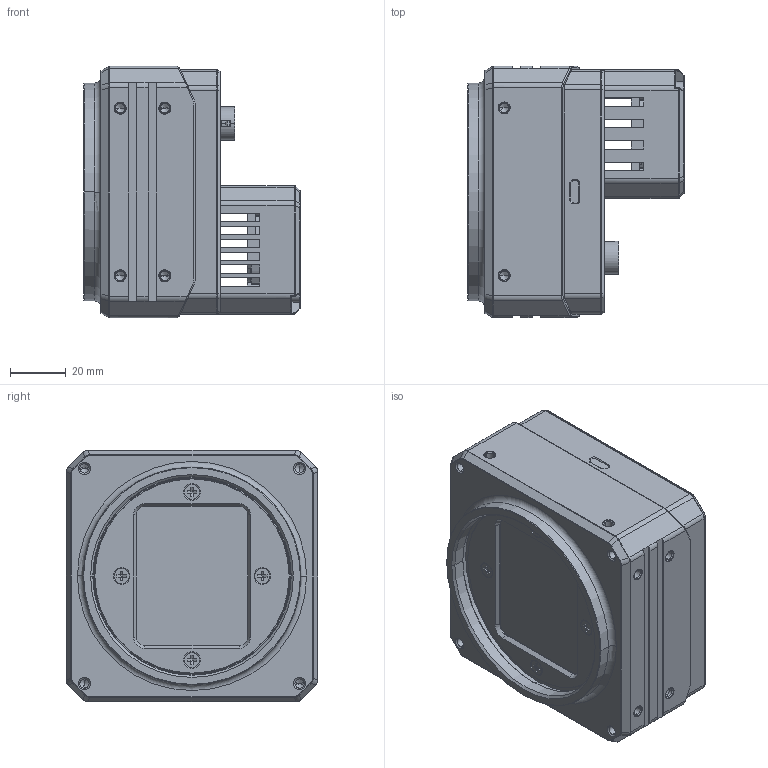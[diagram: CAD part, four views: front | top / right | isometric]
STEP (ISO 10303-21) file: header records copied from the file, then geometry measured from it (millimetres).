
FILE_DESCRIPTION((''),'2;1');
FILE_NAME('X7-B_ASM_ASM','2020-12-15T18:50:06',('wangyijun6'),(''),'CREO PARAMETRIC BY PTC INC, 2017260','CREO PARAMETRIC BY PTC INC, 2017260','');
FILE_SCHEMA(('CONFIG_CONTROL_DESIGN'));
Products named in the file (1): X7-B_ASM_ASM
Bounding box: 77.55 x 90 x 90 mm (x, y, z)
Volume: 370053 mm3; surface area: 63182.2 mm2
Topology: 1 solids, 31 shells, 1872 faces, 5015 edges, 3137 vertices
Faces by surface type: plane 946, cylinder 555, cone 212, bspline 92, torus 51, extrusion 16
Entity records: 63882 total; most frequent: CARTESIAN_POINT 17282, ORIENTED_EDGE 9806, DIRECTION 9595, EDGE_CURVE 4959, AXIS2_PLACEMENT_3D 3306, VERTEX_POINT 3137, VECTOR 2983, LINE 2967
